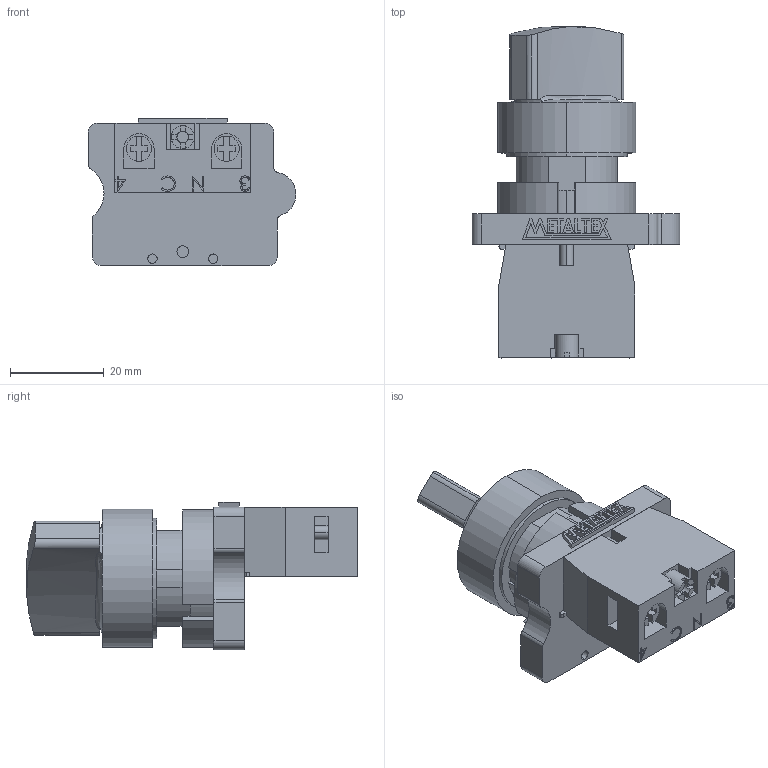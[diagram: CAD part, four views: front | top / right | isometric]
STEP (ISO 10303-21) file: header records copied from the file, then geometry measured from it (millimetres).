
FILE_DESCRIPTION (( 'STEP AP203' ), '1' );
FILE_NAME ('P20SCR.STEP', '2018-01-17T14:07:00', ( '' ), ( '' ), 'SwSTEP 2.0', 'SolidWorks 2012', '' );
FILE_SCHEMA (( 'CONFIG_CONTROL_DESIGN' ));
Length unit declared in the file: millimetre
Products named in the file (4): P20SCR-; M20-1A; METALTEX 18,98; P20SCR
Assembly tree (3 placements, depth 2):
  P20SCR
    P20SCR-
    M20-1A
    METALTEX 18,98
Bounding box: 44.44 x 71 x 31.5 mm (x, y, z)
Volume: 34196.6 mm3; surface area: 12696.7 mm2
Topology: 9 solids, 9 shells, 379 faces, 993 edges, 658 vertices
Faces by surface type: plane 262, cylinder 81, bspline 32, torus 4
Entity records: 14402 total; most frequent: CARTESIAN_POINT 4682, ORIENTED_EDGE 1986, DIRECTION 1822, EDGE_CURVE 993, LINE 716, VECTOR 716, VERTEX_POINT 658, AXIS2_PLACEMENT_3D 553
